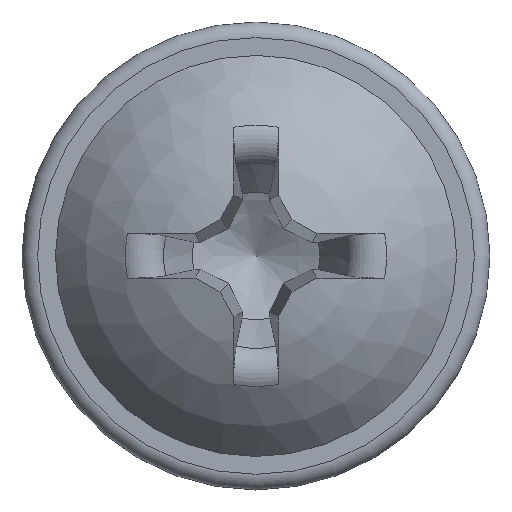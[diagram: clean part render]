
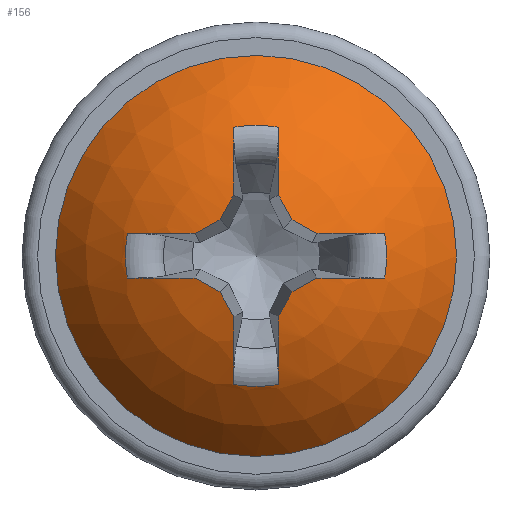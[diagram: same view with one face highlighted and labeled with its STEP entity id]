
A CAD part, top view. The second image highlights one B-rep face of the part: STEP entity #156.
In plain terms, the highlighted spherical face has radius 7.356 mm.
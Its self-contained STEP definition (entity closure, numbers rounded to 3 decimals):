
#117=SPHERICAL_SURFACE('',#908,7.356);
#128=FACE_BOUND('',#256,.T.);
#129=FACE_BOUND('',#257,.T.);
#156=ADVANCED_FACE('',(#128,#129),#117,.T.);
#256=EDGE_LOOP('',(#374));
#257=EDGE_LOOP('',(#375,#376,#377,#378,#379,#380,#381,#382,#383,#384,#385,
#386,#387,#388,#389,#390,#391,#392,#393,#394));
#318=CIRCLE('',#887,6.);
#319=CIRCLE('',#888,7.356);
#320=CIRCLE('',#889,3.906);
#321=CIRCLE('',#890,7.356);
#322=CIRCLE('',#891,7.32);
#323=CIRCLE('',#892,7.32);
#324=CIRCLE('',#893,7.356);
#325=CIRCLE('',#894,3.906);
#326=CIRCLE('',#895,7.356);
#327=CIRCLE('',#896,7.32);
#328=CIRCLE('',#897,7.32);
#329=CIRCLE('',#898,7.356);
#330=CIRCLE('',#899,3.906);
#331=CIRCLE('',#900,7.356);
#332=CIRCLE('',#901,7.32);
#333=CIRCLE('',#902,7.32);
#334=CIRCLE('',#903,7.356);
#335=CIRCLE('',#904,3.906);
#336=CIRCLE('',#905,7.356);
#337=CIRCLE('',#906,7.32);
#338=CIRCLE('',#907,7.32);
#374=ORIENTED_EDGE('',*,*,#709,.T.);
#375=ORIENTED_EDGE('',*,*,#710,.F.);
#376=ORIENTED_EDGE('',*,*,#711,.T.);
#377=ORIENTED_EDGE('',*,*,#712,.F.);
#378=ORIENTED_EDGE('',*,*,#713,.F.);
#379=ORIENTED_EDGE('',*,*,#714,.F.);
#380=ORIENTED_EDGE('',*,*,#715,.F.);
#381=ORIENTED_EDGE('',*,*,#716,.T.);
#382=ORIENTED_EDGE('',*,*,#717,.F.);
#383=ORIENTED_EDGE('',*,*,#718,.F.);
#384=ORIENTED_EDGE('',*,*,#719,.F.);
#385=ORIENTED_EDGE('',*,*,#720,.F.);
#386=ORIENTED_EDGE('',*,*,#721,.T.);
#387=ORIENTED_EDGE('',*,*,#722,.F.);
#388=ORIENTED_EDGE('',*,*,#723,.F.);
#389=ORIENTED_EDGE('',*,*,#724,.F.);
#390=ORIENTED_EDGE('',*,*,#725,.F.);
#391=ORIENTED_EDGE('',*,*,#726,.T.);
#392=ORIENTED_EDGE('',*,*,#727,.F.);
#393=ORIENTED_EDGE('',*,*,#728,.F.);
#394=ORIENTED_EDGE('',*,*,#729,.F.);
#622=VERTEX_POINT('',#1629);
#623=VERTEX_POINT('',#1631);
#624=VERTEX_POINT('',#1632);
#625=VERTEX_POINT('',#1634);
#626=VERTEX_POINT('',#1636);
#627=VERTEX_POINT('',#1638);
#628=VERTEX_POINT('',#1640);
#629=VERTEX_POINT('',#1642);
#630=VERTEX_POINT('',#1644);
#631=VERTEX_POINT('',#1646);
#632=VERTEX_POINT('',#1648);
#633=VERTEX_POINT('',#1650);
#634=VERTEX_POINT('',#1652);
#635=VERTEX_POINT('',#1654);
#636=VERTEX_POINT('',#1656);
#637=VERTEX_POINT('',#1658);
#638=VERTEX_POINT('',#1660);
#639=VERTEX_POINT('',#1662);
#640=VERTEX_POINT('',#1664);
#641=VERTEX_POINT('',#1666);
#642=VERTEX_POINT('',#1668);
#709=EDGE_CURVE('',#622,#622,#318,.T.);
#710=EDGE_CURVE('',#623,#624,#319,.T.);
#711=EDGE_CURVE('',#623,#625,#320,.T.);
#712=EDGE_CURVE('',#626,#625,#321,.T.);
#713=EDGE_CURVE('',#627,#626,#322,.T.);
#714=EDGE_CURVE('',#628,#627,#323,.T.);
#715=EDGE_CURVE('',#629,#628,#324,.T.);
#716=EDGE_CURVE('',#629,#630,#325,.T.);
#717=EDGE_CURVE('',#631,#630,#326,.T.);
#718=EDGE_CURVE('',#632,#631,#327,.T.);
#719=EDGE_CURVE('',#633,#632,#328,.T.);
#720=EDGE_CURVE('',#634,#633,#329,.T.);
#721=EDGE_CURVE('',#634,#635,#330,.T.);
#722=EDGE_CURVE('',#636,#635,#331,.T.);
#723=EDGE_CURVE('',#637,#636,#332,.T.);
#724=EDGE_CURVE('',#638,#637,#333,.T.);
#725=EDGE_CURVE('',#639,#638,#334,.T.);
#726=EDGE_CURVE('',#639,#640,#335,.T.);
#727=EDGE_CURVE('',#641,#640,#336,.T.);
#728=EDGE_CURVE('',#642,#641,#337,.T.);
#729=EDGE_CURVE('',#624,#642,#338,.T.);
#887=AXIS2_PLACEMENT_3D('',#1628,#974,#975);
#888=AXIS2_PLACEMENT_3D('',#1630,#976,#977);
#889=AXIS2_PLACEMENT_3D('',#1633,#978,#979);
#890=AXIS2_PLACEMENT_3D('',#1635,#980,#981);
#891=AXIS2_PLACEMENT_3D('',#1637,#982,#983);
#892=AXIS2_PLACEMENT_3D('',#1639,#984,#985);
#893=AXIS2_PLACEMENT_3D('',#1641,#986,#987);
#894=AXIS2_PLACEMENT_3D('',#1643,#988,#989);
#895=AXIS2_PLACEMENT_3D('',#1645,#990,#991);
#896=AXIS2_PLACEMENT_3D('',#1647,#992,#993);
#897=AXIS2_PLACEMENT_3D('',#1649,#994,#995);
#898=AXIS2_PLACEMENT_3D('',#1651,#996,#997);
#899=AXIS2_PLACEMENT_3D('',#1653,#998,#999);
#900=AXIS2_PLACEMENT_3D('',#1655,#1000,#1001);
#901=AXIS2_PLACEMENT_3D('',#1657,#1002,#1003);
#902=AXIS2_PLACEMENT_3D('',#1659,#1004,#1005);
#903=AXIS2_PLACEMENT_3D('',#1661,#1006,#1007);
#904=AXIS2_PLACEMENT_3D('',#1663,#1008,#1009);
#905=AXIS2_PLACEMENT_3D('',#1665,#1010,#1011);
#906=AXIS2_PLACEMENT_3D('',#1667,#1012,#1013);
#907=AXIS2_PLACEMENT_3D('',#1669,#1014,#1015);
#908=AXIS2_PLACEMENT_3D('',#1670,#1016,#1017);
#974=DIRECTION('',(0.,0.,1.));
#975=DIRECTION('',(1.,0.,0.));
#976=DIRECTION('',(-0.035,0.996,0.087));
#977=DIRECTION('',(0.,-0.087,0.996));
#978=DIRECTION('',(0.,0.,-1.));
#979=DIRECTION('',(-1.,0.,0.));
#980=DIRECTION('',(-0.035,-0.996,0.087));
#981=DIRECTION('',(0.,-0.087,-0.996));
#982=DIRECTION('',(0.467,-0.879,0.1));
#983=DIRECTION('',(0.883,0.469,0.));
#984=DIRECTION('',(0.879,-0.467,0.1));
#985=DIRECTION('',(0.469,0.883,0.));
#986=DIRECTION('',(0.996,0.035,0.087));
#987=DIRECTION('',(0.087,0.,-0.996));
#988=DIRECTION('',(0.,0.,-1.));
#989=DIRECTION('',(-1.,0.,0.));
#990=DIRECTION('',(-0.996,0.035,0.087));
#991=DIRECTION('',(0.087,0.,0.996));
#992=DIRECTION('',(-0.879,-0.467,0.1));
#993=DIRECTION('',(0.469,-0.883,0.));
#994=DIRECTION('',(-0.467,-0.879,0.1));
#995=DIRECTION('',(0.883,-0.469,0.));
#996=DIRECTION('',(0.035,-0.996,0.087));
#997=DIRECTION('',(0.,-0.087,-0.996));
#998=DIRECTION('',(0.,0.,-1.));
#999=DIRECTION('',(-1.,0.,0.));
#1000=DIRECTION('',(0.035,0.996,0.087));
#1001=DIRECTION('',(0.,-0.087,0.996));
#1002=DIRECTION('',(-0.467,0.879,0.1));
#1003=DIRECTION('',(-0.883,-0.469,0.));
#1004=DIRECTION('',(-0.879,0.467,0.1));
#1005=DIRECTION('',(-0.469,-0.883,0.));
#1006=DIRECTION('',(-0.996,-0.035,0.087));
#1007=DIRECTION('',(0.087,0.,0.996));
#1008=DIRECTION('',(0.,0.,-1.));
#1009=DIRECTION('',(-1.,0.,0.));
#1010=DIRECTION('',(0.996,-0.035,0.087));
#1011=DIRECTION('',(0.087,0.,-0.996));
#1012=DIRECTION('',(0.879,0.467,0.1));
#1013=DIRECTION('',(-0.469,0.883,0.));
#1014=DIRECTION('',(0.467,0.879,0.1));
#1015=DIRECTION('',(-0.883,0.469,0.));
#1016=DIRECTION('',(0.,0.,1.));
#1017=DIRECTION('',(0.,1.,0.));
#1628=CARTESIAN_POINT('',(0.,0.,1.5));
#1629=CARTESIAN_POINT('',(6.,0.,1.5));
#1630=CARTESIAN_POINT('',(-0.001,0.016,-2.755));
#1631=CARTESIAN_POINT('',(-3.85,-0.664,3.477));
#1632=CARTESIAN_POINT('',(-1.822,-0.668,4.34));
#1633=CARTESIAN_POINT('',(0.,0.,3.477));
#1634=CARTESIAN_POINT('',(-3.85,0.664,3.477));
#1635=CARTESIAN_POINT('',(-0.001,-0.016,-2.755));
#1636=CARTESIAN_POINT('',(-1.822,0.668,4.34));
#1637=CARTESIAN_POINT('',(-0.34,0.639,-2.829));
#1638=CARTESIAN_POINT('',(-1.076,1.076,4.441));
#1639=CARTESIAN_POINT('',(-0.639,0.34,-2.829));
#1640=CARTESIAN_POINT('',(-0.668,1.822,4.34));
#1641=CARTESIAN_POINT('',(0.016,0.001,-2.755));
#1642=CARTESIAN_POINT('',(-0.664,3.85,3.477));
#1643=CARTESIAN_POINT('',(0.,0.,3.477));
#1644=CARTESIAN_POINT('',(0.664,3.85,3.477));
#1645=CARTESIAN_POINT('',(-0.016,0.001,-2.755));
#1646=CARTESIAN_POINT('',(0.668,1.822,4.34));
#1647=CARTESIAN_POINT('',(0.639,0.34,-2.829));
#1648=CARTESIAN_POINT('',(1.076,1.076,4.441));
#1649=CARTESIAN_POINT('',(0.34,0.639,-2.829));
#1650=CARTESIAN_POINT('',(1.822,0.668,4.34));
#1651=CARTESIAN_POINT('',(0.001,-0.016,-2.755));
#1652=CARTESIAN_POINT('',(3.85,0.664,3.477));
#1653=CARTESIAN_POINT('',(0.,0.,3.477));
#1654=CARTESIAN_POINT('',(3.85,-0.664,3.477));
#1655=CARTESIAN_POINT('',(0.001,0.016,-2.755));
#1656=CARTESIAN_POINT('',(1.822,-0.668,4.34));
#1657=CARTESIAN_POINT('',(0.34,-0.639,-2.829));
#1658=CARTESIAN_POINT('',(1.076,-1.076,4.441));
#1659=CARTESIAN_POINT('',(0.639,-0.34,-2.829));
#1660=CARTESIAN_POINT('',(0.668,-1.822,4.34));
#1661=CARTESIAN_POINT('',(-0.016,-0.001,-2.755));
#1662=CARTESIAN_POINT('',(0.664,-3.85,3.477));
#1663=CARTESIAN_POINT('',(0.,0.,3.477));
#1664=CARTESIAN_POINT('',(-0.664,-3.85,3.477));
#1665=CARTESIAN_POINT('',(0.016,-0.001,-2.755));
#1666=CARTESIAN_POINT('',(-0.668,-1.822,4.34));
#1667=CARTESIAN_POINT('',(-0.639,-0.34,-2.829));
#1668=CARTESIAN_POINT('',(-1.076,-1.076,4.441));
#1669=CARTESIAN_POINT('',(-0.34,-0.639,-2.829));
#1670=CARTESIAN_POINT('',(0.,0.,-2.756));
